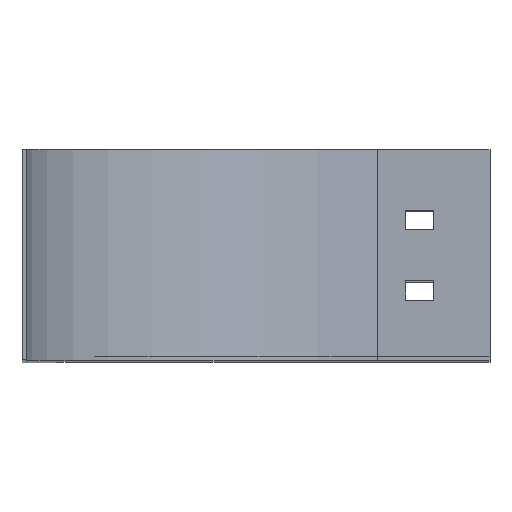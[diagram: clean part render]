
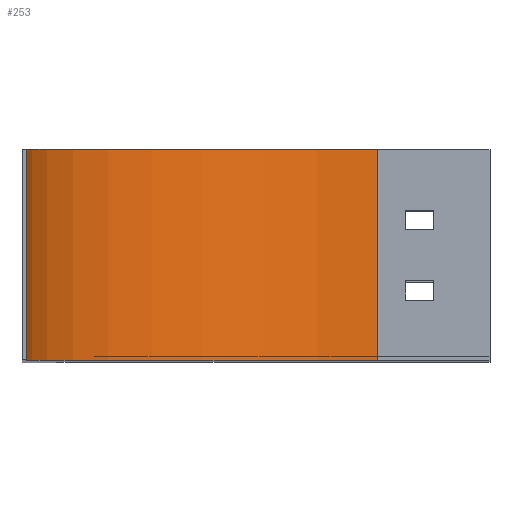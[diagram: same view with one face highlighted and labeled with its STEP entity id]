
A CAD part, top view. The second image highlights one B-rep face of the part: STEP entity #253.
In plain terms, the highlighted cylindrical face has radius 125 mm (diameter 250 mm), a partial arc.
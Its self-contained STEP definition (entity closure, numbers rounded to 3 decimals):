
#118 = CARTESIAN_POINT ( 'NONE',  ( 0., 75., -125. ) ) ;
#123 = EDGE_CURVE ( 'NONE', #1091, #297, #437, .T. ) ;
#149 = CYLINDRICAL_SURFACE ( 'NONE', #1238, 125. ) ;
#239 = CARTESIAN_POINT ( 'NONE',  ( -125., 0., 0. ) ) ;
#245 = LINE ( 'NONE', #118, #865 ) ;
#248 = EDGE_CURVE ( 'NONE', #297, #1401, #245, .T. ) ;
#253 = ADVANCED_FACE ( 'NONE', ( #279 ), #149, .F. ) ;
#269 = CARTESIAN_POINT ( 'NONE',  ( 0., 75., -125. ) ) ;
#279 = FACE_OUTER_BOUND ( 'NONE', #324, .T. ) ;
#280 = CARTESIAN_POINT ( 'NONE',  ( -125., 75., 0. ) ) ;
#297 = VERTEX_POINT ( 'NONE', #269 ) ;
#324 = EDGE_LOOP ( 'NONE', ( #354, #1481, #1445, #958 ) ) ;
#351 = EDGE_CURVE ( 'NONE', #1091, #1308, #1431, .T. ) ;
#354 = ORIENTED_EDGE ( 'NONE', *, *, #581, .T. ) ;
#402 = CARTESIAN_POINT ( 'NONE',  ( 0., 75., 0. ) ) ;
#428 = DIRECTION ( 'NONE',  ( 0., -1., 0. ) ) ;
#437 = CIRCLE ( 'NONE', #1561, 125. ) ;
#581 = EDGE_CURVE ( 'NONE', #1308, #1401, #791, .T. ) ;
#642 = CARTESIAN_POINT ( 'NONE',  ( 0., 0., -125. ) ) ;
#739 = AXIS2_PLACEMENT_3D ( 'NONE', #1421, #1536, #1649 ) ;
#791 = CIRCLE ( 'NONE', #739, 125. ) ;
#865 = VECTOR ( 'NONE', #1284, 1000. ) ;
#919 = VECTOR ( 'NONE', #937, 1000. ) ;
#937 = DIRECTION ( 'NONE',  ( 0., -1., 0. ) ) ;
#958 = ORIENTED_EDGE ( 'NONE', *, *, #351, .T. ) ;
#1085 = CARTESIAN_POINT ( 'NONE',  ( 0., 75., 0. ) ) ;
#1091 = VERTEX_POINT ( 'NONE', #280 ) ;
#1093 = DIRECTION ( 'NONE',  ( 0., -1., 0. ) ) ;
#1204 = DIRECTION ( 'NONE',  ( 0., 0., -1. ) ) ;
#1238 = AXIS2_PLACEMENT_3D ( 'NONE', #402, #428, #1204 ) ;
#1284 = DIRECTION ( 'NONE',  ( 0., -1., 0. ) ) ;
#1301 = CARTESIAN_POINT ( 'NONE',  ( -125., 75., 0. ) ) ;
#1308 = VERTEX_POINT ( 'NONE', #239 ) ;
#1401 = VERTEX_POINT ( 'NONE', #642 ) ;
#1421 = CARTESIAN_POINT ( 'NONE',  ( 0., 0., 0. ) ) ;
#1431 = LINE ( 'NONE', #1301, #919 ) ;
#1445 = ORIENTED_EDGE ( 'NONE', *, *, #123, .F. ) ;
#1481 = ORIENTED_EDGE ( 'NONE', *, *, #248, .F. ) ;
#1536 = DIRECTION ( 'NONE',  ( 0., -1., 0. ) ) ;
#1561 = AXIS2_PLACEMENT_3D ( 'NONE', #1085, #1093, #1603 ) ;
#1603 = DIRECTION ( 'NONE',  ( 0., 0., -1. ) ) ;
#1649 = DIRECTION ( 'NONE',  ( 0., 0., -1. ) ) ;
